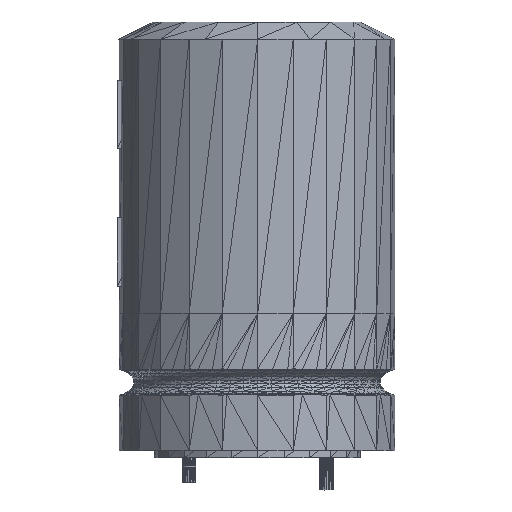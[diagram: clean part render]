
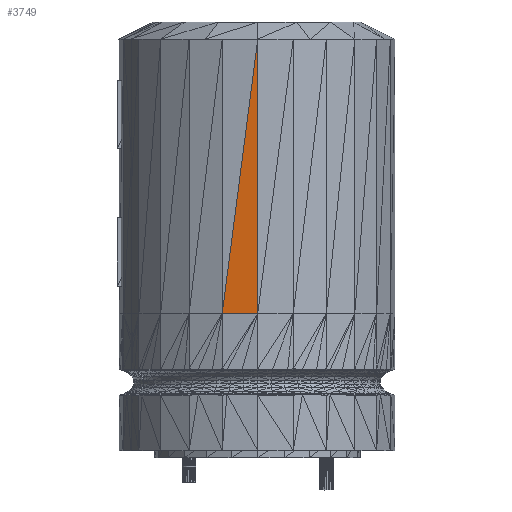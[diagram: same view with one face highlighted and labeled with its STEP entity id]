
A CAD part, front view. The second image highlights one B-rep face of the part: STEP entity #3749.
In plain terms, the highlighted planar face has unit normal (-0.131, -0.991, 0).
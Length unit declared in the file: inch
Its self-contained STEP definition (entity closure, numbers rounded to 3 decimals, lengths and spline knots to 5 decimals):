
#2965=CARTESIAN_POINT('',(0.,-0.50031,1.5249));
#2966=VERTEX_POINT('',#2965);
#3693=CARTESIAN_POINT('',(0.,-0.50011,0.5249));
#3694=VERTEX_POINT('',#3693);
#3717=CARTESIAN_POINT('',(0.,-0.50011,0.5249));
#3718=DIRECTION('',(0.,0.,1.));
#3719=VECTOR('',#3718,1.);
#3720=LINE('',#3717,#3719);
#3721=EDGE_CURVE('',#3694,#2966,#3720,.T.);
#3727=CARTESIAN_POINT('',(0.,-0.50031,1.5249));
#3728=DIRECTION('',(0.131,0.991,0.));
#3729=DIRECTION('',(0.991,-0.131,0.));
#3730=AXIS2_PLACEMENT_3D('',#3727,#3728,#3729);
#3731=PLANE('',#3730);
#3732=CARTESIAN_POINT('',(-0.12941,-0.48307,0.5249));
#3733=VERTEX_POINT('',#3732);
#3734=CARTESIAN_POINT('',(-0.12941,-0.48307,0.5249));
#3735=DIRECTION('',(0.128,-0.017,0.992));
#3736=VECTOR('',#3735,1.00848);
#3737=LINE('',#3734,#3736);
#3738=EDGE_CURVE('',#3733,#2966,#3737,.T.);
#3739=ORIENTED_EDGE('',*,*,#3738,.F.);
#3740=CARTESIAN_POINT('',(0.,-0.50011,0.5249));
#3741=DIRECTION('',(-0.991,0.131,0.));
#3742=VECTOR('',#3741,0.13053);
#3743=LINE('',#3740,#3742);
#3744=EDGE_CURVE('',#3694,#3733,#3743,.T.);
#3745=ORIENTED_EDGE('',*,*,#3744,.F.);
#3746=ORIENTED_EDGE('',*,*,#3721,.T.);
#3747=EDGE_LOOP('',(#3739,#3745,#3746));
#3748=FACE_BOUND('',#3747,.T.);
#3749=ADVANCED_FACE('',(#3748),#3731,.F.);
